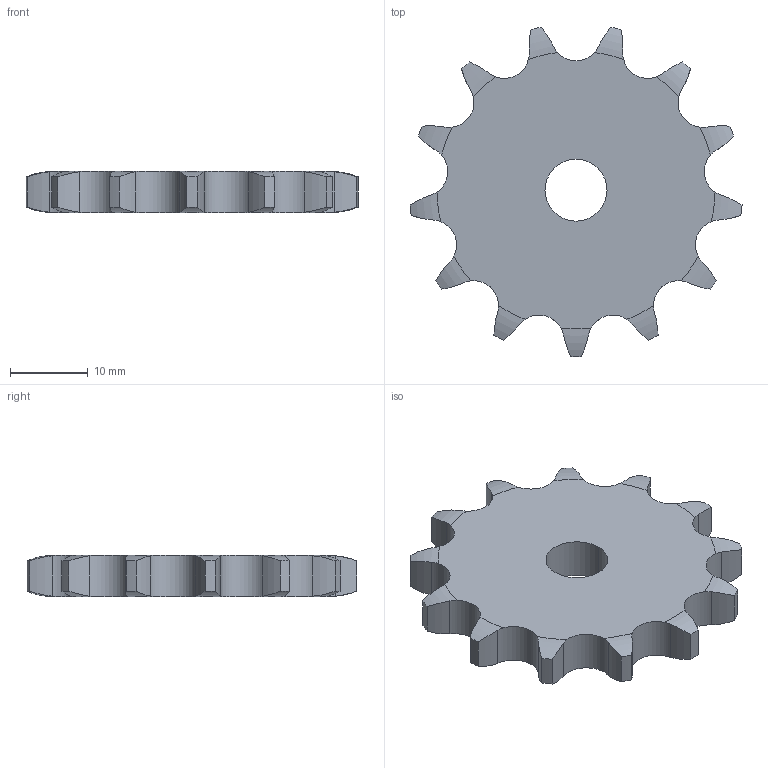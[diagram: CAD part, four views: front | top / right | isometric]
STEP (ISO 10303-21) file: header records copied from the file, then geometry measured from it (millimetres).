
FILE_DESCRIPTION((''),'2;1');
FILE_NAME('500-101-0013_PRT','2021-02-12T',('Brieden'),('Brieden'),'PRO/ENGINEER BY PARAMETRIC TECHNOLOGY CORPORATION, 2010160','PRO/ENGINEER BY PARAMETRIC TECHNOLOGY CORPORATION, 2010160','');
FILE_SCHEMA(('AUTOMOTIVE_DESIGN { 1 0 10303 214 1 1 1 1 }'));
Length unit declared in the file: millimetre
Products named in the file (1): 500-101-0013_PRT
Bounding box: 42.83 x 42.53 x 5.3 mm (x, y, z)
Volume: 5420.4 mm3; surface area: 3130.4 mm2
Topology: 1 solids, 1 shells, 82 faces, 240 edges, 160 vertices
Faces by surface type: cylinder 54, torus 26, plane 2
Entity records: 3898 total; most frequent: CARTESIAN_POINT 1051, ORIENTED_EDGE 480, DIRECTION 382, PRESENTATION_STYLE_ASSIGNMENT 241, STYLED_ITEM 241, CURVE_STYLE 240, EDGE_CURVE 240, AXIS2_PLACEMENT_3D 164
